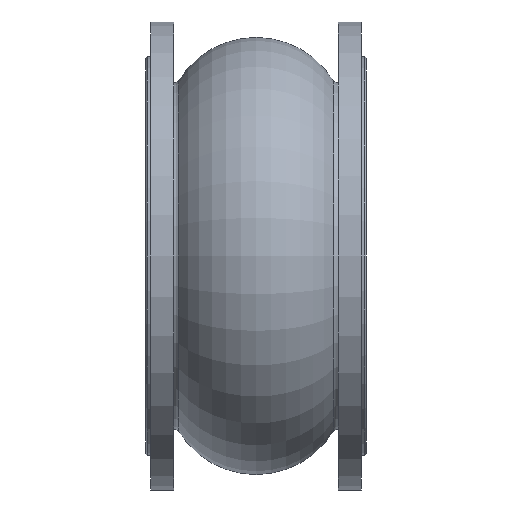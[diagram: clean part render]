
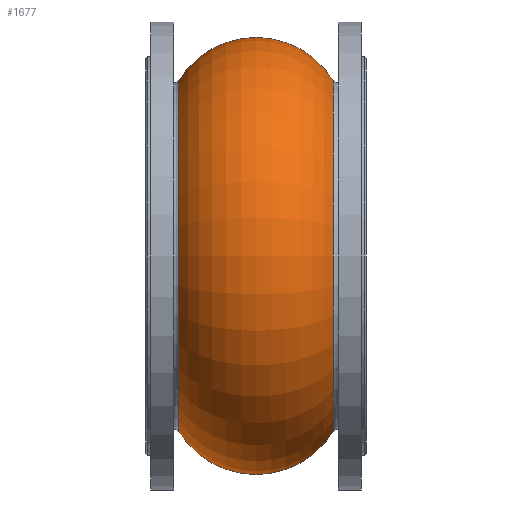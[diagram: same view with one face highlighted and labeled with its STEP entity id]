
A CAD part, front view. The second image highlights one B-rep face of the part: STEP entity #1677.
In plain terms, the highlighted toroidal (fillet/blend) face has major radius 154.152 mm and minor radius 109.697 mm.
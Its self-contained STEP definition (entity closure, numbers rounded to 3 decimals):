
#625 = AXIS2_PLACEMENT_3D ( 'NONE', #712, #711, #710 ) ;
#650 = AXIS2_PLACEMENT_3D ( 'NONE', #719, #718, #717 ) ;
#653 = CIRCLE ( 'NONE', #704, 109.697 ) ;
#690 = CARTESIAN_POINT ( 'NONE',  ( -93.002, 0., 212.323 ) ) ;
#701 = DIRECTION ( 'NONE',  ( 0., 0., 1. ) ) ;
#702 = DIRECTION ( 'NONE',  ( 0., 1., 0. ) ) ;
#703 = CARTESIAN_POINT ( 'NONE',  ( 0., 0., -154.152 ) ) ;
#704 = AXIS2_PLACEMENT_3D ( 'NONE', #703, #702, #701 ) ;
#710 = DIRECTION ( 'NONE',  ( 0., 0., -1. ) ) ;
#711 = DIRECTION ( 'NONE',  ( 0., -1., 0. ) ) ;
#712 = CARTESIAN_POINT ( 'NONE',  ( 0., 0., 154.152 ) ) ;
#713 = CIRCLE ( 'NONE', #625, 109.697 ) ;
#717 = DIRECTION ( 'NONE',  ( 0., 0., 1. ) ) ;
#718 = DIRECTION ( 'NONE',  ( -1., 0., 0. ) ) ;
#719 = CARTESIAN_POINT ( 'NONE',  ( 93.002, 0., 0. ) ) ;
#733 = CIRCLE ( 'NONE', #650, 212.323 ) ;
#739 = CARTESIAN_POINT ( 'NONE',  ( -93.002, 0., -212.323 ) ) ;
#743 = CARTESIAN_POINT ( 'NONE',  ( 93.002, 0., 212.323 ) ) ;
#769 = CIRCLE ( 'NONE', #773, 212.323 ) ;
#773 = AXIS2_PLACEMENT_3D ( 'NONE', #793, #792, #791 ) ;
#791 = DIRECTION ( 'NONE',  ( 0., 0., 1. ) ) ;
#792 = DIRECTION ( 'NONE',  ( -1., 0., 0. ) ) ;
#793 = CARTESIAN_POINT ( 'NONE',  ( -93.002, 0., 0. ) ) ;
#1182 = CARTESIAN_POINT ( 'NONE',  ( 93.002, 0., -212.323 ) ) ;
#1675 = ORIENTED_EDGE ( 'NONE', *, *, #2371, .T. ) ;
#1676 = EDGE_LOOP ( 'NONE', ( #1689, #1675, #1678, #1690 ) ) ;
#1677 = ADVANCED_FACE ( 'NONE', ( #3106 ), #3100, .T. ) ;
#1678 = ORIENTED_EDGE ( 'NONE', *, *, #2357, .T. ) ;
#1689 = ORIENTED_EDGE ( 'NONE', *, *, #2366, .F. ) ;
#1690 = ORIENTED_EDGE ( 'NONE', *, *, #2400, .F. ) ;
#2357 = EDGE_CURVE ( 'NONE', #2381, #2363, #713, .T. ) ;
#2363 = VERTEX_POINT ( 'NONE', #690 ) ;
#2366 = EDGE_CURVE ( 'NONE', #2612, #2369, #653, .T. ) ;
#2369 = VERTEX_POINT ( 'NONE', #739 ) ;
#2371 = EDGE_CURVE ( 'NONE', #2612, #2381, #733, .T. ) ;
#2381 = VERTEX_POINT ( 'NONE', #743 ) ;
#2400 = EDGE_CURVE ( 'NONE', #2369, #2363, #769, .T. ) ;
#2612 = VERTEX_POINT ( 'NONE', #1182 ) ;
#3100 = TOROIDAL_SURFACE ( 'NONE', #3189, 154.152, 109.697 ) ;
#3106 = FACE_OUTER_BOUND ( 'NONE', #1676, .T. ) ;
#3141 = DIRECTION ( 'NONE',  ( 0., 0., 1. ) ) ;
#3142 = DIRECTION ( 'NONE',  ( -1., 0., 0. ) ) ;
#3144 = CARTESIAN_POINT ( 'NONE',  ( 0., 0., 0. ) ) ;
#3189 = AXIS2_PLACEMENT_3D ( 'NONE', #3144, #3142, #3141 ) ;
